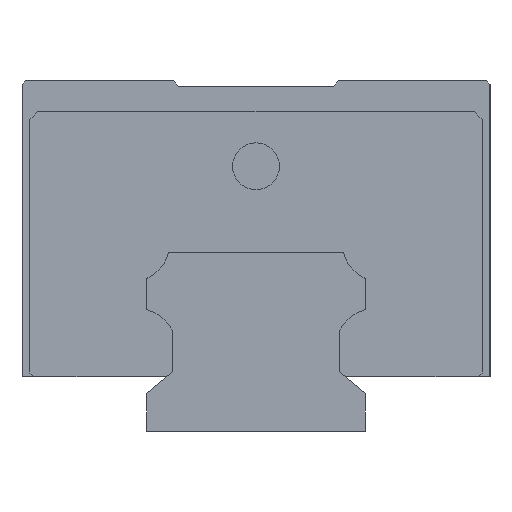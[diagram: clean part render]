
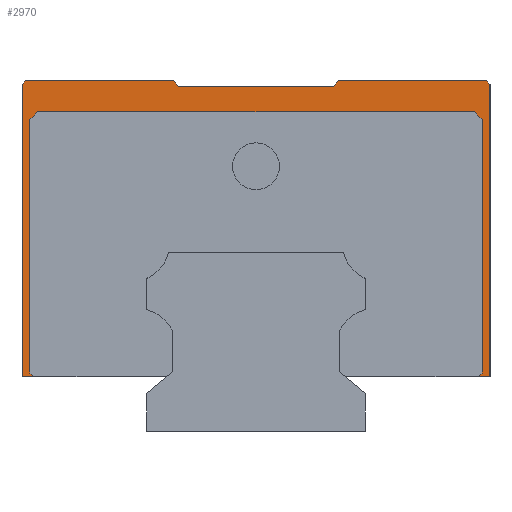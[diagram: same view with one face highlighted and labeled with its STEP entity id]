
A CAD part, left-side view. The second image highlights one B-rep face of the part: STEP entity #2970.
In plain terms, the highlighted planar face has unit normal (-1, 0, 0).
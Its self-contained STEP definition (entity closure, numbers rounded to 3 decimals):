
#26 = EDGE_CURVE ( 'NONE', #1452, #1615, #5650, .T. ) ;
#63 = LINE ( 'NONE', #1414, #364 ) ;
#103 = VERTEX_POINT ( 'NONE', #3485 ) ;
#241 = ORIENTED_EDGE ( 'NONE', *, *, #1589, .F. ) ;
#316 = CARTESIAN_POINT ( 'NONE',  ( -52.5, -29., 7.5 ) ) ;
#326 = EDGE_CURVE ( 'NONE', #1600, #2973, #2451, .T. ) ;
#327 = DIRECTION ( 'NONE',  ( 0., 0.707, 0.707 ) ) ;
#364 = VECTOR ( 'NONE', #449, 1000. ) ;
#376 = PLANE ( 'NONE',  #4928 ) ;
#382 = CARTESIAN_POINT ( 'NONE',  ( -52.5, 29., 40. ) ) ;
#422 = EDGE_CURVE ( 'NONE', #4231, #1726, #2697, .T. ) ;
#449 = DIRECTION ( 'NONE',  ( 0., 0.707, -0.707 ) ) ;
#451 = CARTESIAN_POINT ( 'NONE',  ( -52.5, 29.5, 45. ) ) ;
#455 = LINE ( 'NONE', #4547, #3740 ) ;
#475 = EDGE_CURVE ( 'NONE', #3975, #1600, #2230, .T. ) ;
#485 = LINE ( 'NONE', #888, #3258 ) ;
#513 = VECTOR ( 'NONE', #906, 1000. ) ;
#522 = EDGE_CURVE ( 'NONE', #3419, #1452, #1946, .T. ) ;
#550 = CARTESIAN_POINT ( 'NONE',  ( -52.5, -28., 41. ) ) ;
#690 = VECTOR ( 'NONE', #825, 1000. ) ;
#813 = EDGE_CURVE ( 'NONE', #4732, #103, #455, .T. ) ;
#825 = DIRECTION ( 'NONE',  ( 0., -1., 0. ) ) ;
#827 = CARTESIAN_POINT ( 'NONE',  ( -52.5, -29., 40. ) ) ;
#888 = CARTESIAN_POINT ( 'NONE',  ( -52.5, 29., 7.5 ) ) ;
#906 = DIRECTION ( 'NONE',  ( 0., 0.643, -0.766 ) ) ;
#914 = LINE ( 'NONE', #4588, #5304 ) ;
#916 = CARTESIAN_POINT ( 'NONE',  ( -52.5, -10.629, 45. ) ) ;
#958 = ORIENTED_EDGE ( 'NONE', *, *, #3460, .T. ) ;
#972 = DIRECTION ( 'NONE',  ( 0., 0., 1. ) ) ;
#977 = DIRECTION ( 'NONE',  ( 0., -1., 0. ) ) ;
#1076 = LINE ( 'NONE', #4176, #3526 ) ;
#1156 = EDGE_LOOP ( 'NONE', ( #3958, #1324, #4900, #4051, #3467, #2407, #4635, #4532, #1314, #5271, #1734, #4920, #958, #5449, #1930, #5694, #2544, #241 ) ) ;
#1304 = CARTESIAN_POINT ( 'NONE',  ( -52.5, -30., 45. ) ) ;
#1314 = ORIENTED_EDGE ( 'NONE', *, *, #326, .F. ) ;
#1324 = ORIENTED_EDGE ( 'NONE', *, *, #422, .T. ) ;
#1328 = EDGE_CURVE ( 'NONE', #5003, #2973, #63, .T. ) ;
#1343 = DIRECTION ( 'NONE',  ( 0., 0.707, 0.707 ) ) ;
#1414 = CARTESIAN_POINT ( 'NONE',  ( -52.5, -29., 7.5 ) ) ;
#1431 = CARTESIAN_POINT ( 'NONE',  ( -52.5, 30., 7. ) ) ;
#1452 = VERTEX_POINT ( 'NONE', #550 ) ;
#1518 = EDGE_CURVE ( 'NONE', #1726, #4133, #485, .T. ) ;
#1589 = EDGE_CURVE ( 'NONE', #3048, #5615, #5469, .T. ) ;
#1600 = VERTEX_POINT ( 'NONE', #2432 ) ;
#1615 = VERTEX_POINT ( 'NONE', #4653 ) ;
#1700 = CARTESIAN_POINT ( 'NONE',  ( -52.5, 28.5, 7. ) ) ;
#1726 = VERTEX_POINT ( 'NONE', #2158 ) ;
#1734 = ORIENTED_EDGE ( 'NONE', *, *, #5633, .T. ) ;
#1785 = FACE_OUTER_BOUND ( 'NONE', #1156, .T. ) ;
#1897 = EDGE_CURVE ( 'NONE', #4231, #3048, #5055, .T. ) ;
#1930 = ORIENTED_EDGE ( 'NONE', *, *, #3983, .T. ) ;
#1946 = LINE ( 'NONE', #2374, #5147 ) ;
#1955 = VECTOR ( 'NONE', #972, 1000. ) ;
#1986 = LINE ( 'NONE', #2774, #3409 ) ;
#2029 = CARTESIAN_POINT ( 'NONE',  ( -52.5, -30., 44.5 ) ) ;
#2117 = VECTOR ( 'NONE', #2631, 1000. ) ;
#2158 = CARTESIAN_POINT ( 'NONE',  ( -52.5, 29., 7.5 ) ) ;
#2210 = LINE ( 'NONE', #5428, #513 ) ;
#2230 = LINE ( 'NONE', #4021, #4011 ) ;
#2367 = VERTEX_POINT ( 'NONE', #451 ) ;
#2374 = CARTESIAN_POINT ( 'NONE',  ( -52.5, 28., 41. ) ) ;
#2407 = ORIENTED_EDGE ( 'NONE', *, *, #26, .T. ) ;
#2432 = CARTESIAN_POINT ( 'NONE',  ( -52.5, -30., 7. ) ) ;
#2451 = LINE ( 'NONE', #2925, #5330 ) ;
#2511 = VECTOR ( 'NONE', #1343, 1000. ) ;
#2544 = ORIENTED_EDGE ( 'NONE', *, *, #3053, .T. ) ;
#2551 = LINE ( 'NONE', #5206, #4455 ) ;
#2631 = DIRECTION ( 'NONE',  ( 0., 0., -1. ) ) ;
#2697 = LINE ( 'NONE', #3134, #2511 ) ;
#2737 = DIRECTION ( 'NONE',  ( 0., -1., 0. ) ) ;
#2774 = CARTESIAN_POINT ( 'NONE',  ( -52.5, -10., 44.25 ) ) ;
#2813 = CARTESIAN_POINT ( 'NONE',  ( -52.5, 30., 7. ) ) ;
#2925 = CARTESIAN_POINT ( 'NONE',  ( -52.5, -30., 7. ) ) ;
#2970 = ADVANCED_FACE ( 'NONE', ( #1785 ), #376, .F. ) ;
#2973 = VERTEX_POINT ( 'NONE', #3094 ) ;
#3048 = VERTEX_POINT ( 'NONE', #2813 ) ;
#3053 = EDGE_CURVE ( 'NONE', #2367, #5615, #914, .T. ) ;
#3094 = CARTESIAN_POINT ( 'NONE',  ( -52.5, -28.5, 7. ) ) ;
#3134 = CARTESIAN_POINT ( 'NONE',  ( -52.5, 28.5, 7. ) ) ;
#3258 = VECTOR ( 'NONE', #4073, 1000. ) ;
#3289 = DIRECTION ( 'NONE',  ( 0., 0.643, 0.766 ) ) ;
#3409 = VECTOR ( 'NONE', #4643, 1000. ) ;
#3419 = VERTEX_POINT ( 'NONE', #3628 ) ;
#3459 = VERTEX_POINT ( 'NONE', #4520 ) ;
#3460 = EDGE_CURVE ( 'NONE', #4732, #4451, #2210, .T. ) ;
#3466 = LINE ( 'NONE', #4715, #4919 ) ;
#3467 = ORIENTED_EDGE ( 'NONE', *, *, #522, .T. ) ;
#3485 = CARTESIAN_POINT ( 'NONE',  ( -52.5, -29.5, 45. ) ) ;
#3526 = VECTOR ( 'NONE', #3289, 1000. ) ;
#3628 = CARTESIAN_POINT ( 'NONE',  ( -52.5, 28., 41. ) ) ;
#3697 = CARTESIAN_POINT ( 'NONE',  ( -52.5, 10.629, 45. ) ) ;
#3736 = VECTOR ( 'NONE', #4525, 1000. ) ;
#3740 = VECTOR ( 'NONE', #2737, 1000. ) ;
#3761 = CARTESIAN_POINT ( 'NONE',  ( -52.5, -28., 41. ) ) ;
#3762 = CARTESIAN_POINT ( 'NONE',  ( -52.5, -10., 44.25 ) ) ;
#3880 = DIRECTION ( 'NONE',  ( 0., -0.707, 0.707 ) ) ;
#3958 = ORIENTED_EDGE ( 'NONE', *, *, #1897, .F. ) ;
#3975 = VERTEX_POINT ( 'NONE', #2029 ) ;
#3983 = EDGE_CURVE ( 'NONE', #3459, #4519, #1076, .T. ) ;
#4011 = VECTOR ( 'NONE', #4885, 1000. ) ;
#4021 = CARTESIAN_POINT ( 'NONE',  ( -52.5, -30., 45. ) ) ;
#4051 = ORIENTED_EDGE ( 'NONE', *, *, #5696, .T. ) ;
#4073 = DIRECTION ( 'NONE',  ( 0., 0., 1. ) ) ;
#4133 = VERTEX_POINT ( 'NONE', #382 ) ;
#4176 = CARTESIAN_POINT ( 'NONE',  ( -52.5, 10., 44.25 ) ) ;
#4231 = VERTEX_POINT ( 'NONE', #1700 ) ;
#4250 = DIRECTION ( 'NONE',  ( 0., 1., 0. ) ) ;
#4400 = EDGE_CURVE ( 'NONE', #1615, #5003, #4533, .T. ) ;
#4451 = VERTEX_POINT ( 'NONE', #3762 ) ;
#4455 = VECTOR ( 'NONE', #327, 1000. ) ;
#4519 = VERTEX_POINT ( 'NONE', #3697 ) ;
#4520 = CARTESIAN_POINT ( 'NONE',  ( -52.5, 10., 44.25 ) ) ;
#4525 = DIRECTION ( 'NONE',  ( 0., 1., 0. ) ) ;
#4532 = ORIENTED_EDGE ( 'NONE', *, *, #1328, .T. ) ;
#4533 = LINE ( 'NONE', #827, #2117 ) ;
#4547 = CARTESIAN_POINT ( 'NONE',  ( -52.5, 30., 45. ) ) ;
#4552 = CARTESIAN_POINT ( 'NONE',  ( -52.5, 11.769, 7. ) ) ;
#4588 = CARTESIAN_POINT ( 'NONE',  ( -52.5, 29.5, 45. ) ) ;
#4635 = ORIENTED_EDGE ( 'NONE', *, *, #4400, .T. ) ;
#4643 = DIRECTION ( 'NONE',  ( 0., 1., 0. ) ) ;
#4653 = CARTESIAN_POINT ( 'NONE',  ( -52.5, -29., 40. ) ) ;
#4715 = CARTESIAN_POINT ( 'NONE',  ( -52.5, 29., 40. ) ) ;
#4732 = VERTEX_POINT ( 'NONE', #916 ) ;
#4876 = DIRECTION ( 'NONE',  ( 0., 1., 0. ) ) ;
#4885 = DIRECTION ( 'NONE',  ( 0., 0., -1. ) ) ;
#4900 = ORIENTED_EDGE ( 'NONE', *, *, #1518, .T. ) ;
#4919 = VECTOR ( 'NONE', #3880, 1000. ) ;
#4920 = ORIENTED_EDGE ( 'NONE', *, *, #813, .F. ) ;
#4928 = AXIS2_PLACEMENT_3D ( 'NONE', #1304, #5260, #4876 ) ;
#4970 = LINE ( 'NONE', #5410, #690 ) ;
#5003 = VERTEX_POINT ( 'NONE', #316 ) ;
#5055 = LINE ( 'NONE', #4552, #3736 ) ;
#5144 = VECTOR ( 'NONE', #5563, 1000. ) ;
#5147 = VECTOR ( 'NONE', #977, 1000. ) ;
#5206 = CARTESIAN_POINT ( 'NONE',  ( -52.5, -30., 44.5 ) ) ;
#5260 = DIRECTION ( 'NONE',  ( 1., 0., 0. ) ) ;
#5271 = ORIENTED_EDGE ( 'NONE', *, *, #475, .F. ) ;
#5281 = EDGE_CURVE ( 'NONE', #4451, #3459, #1986, .T. ) ;
#5304 = VECTOR ( 'NONE', #5402, 1000. ) ;
#5330 = VECTOR ( 'NONE', #4250, 1000. ) ;
#5402 = DIRECTION ( 'NONE',  ( 0., 0.707, -0.707 ) ) ;
#5410 = CARTESIAN_POINT ( 'NONE',  ( -52.5, 30., 45. ) ) ;
#5428 = CARTESIAN_POINT ( 'NONE',  ( -52.5, -10.629, 45. ) ) ;
#5449 = ORIENTED_EDGE ( 'NONE', *, *, #5281, .T. ) ;
#5469 = LINE ( 'NONE', #1431, #1955 ) ;
#5540 = CARTESIAN_POINT ( 'NONE',  ( -52.5, 30., 44.5 ) ) ;
#5563 = DIRECTION ( 'NONE',  ( 0., -0.707, -0.707 ) ) ;
#5615 = VERTEX_POINT ( 'NONE', #5540 ) ;
#5633 = EDGE_CURVE ( 'NONE', #3975, #103, #2551, .T. ) ;
#5650 = LINE ( 'NONE', #3761, #5144 ) ;
#5694 = ORIENTED_EDGE ( 'NONE', *, *, #5782, .F. ) ;
#5696 = EDGE_CURVE ( 'NONE', #4133, #3419, #3466, .T. ) ;
#5782 = EDGE_CURVE ( 'NONE', #2367, #4519, #4970, .T. ) ;
